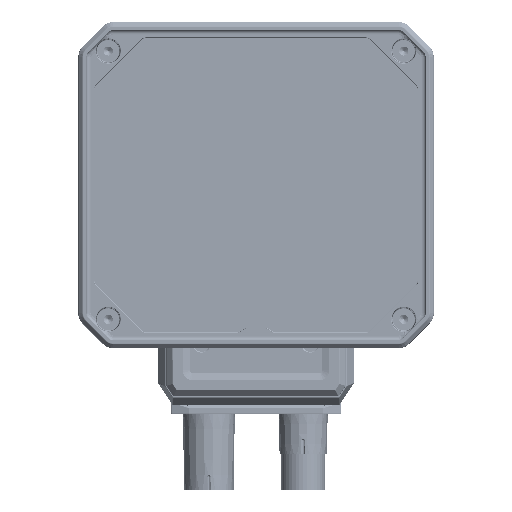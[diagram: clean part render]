
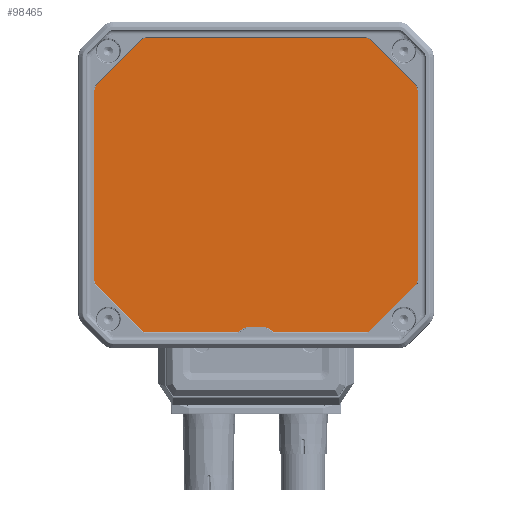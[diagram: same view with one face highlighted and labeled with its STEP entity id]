
A CAD part, front view. The second image highlights one B-rep face of the part: STEP entity #98465.
In plain terms, the highlighted planar face has unit normal (0, -1, 0).
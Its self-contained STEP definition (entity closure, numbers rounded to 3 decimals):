
#20279=DIRECTION('',(0.,0.,1.));
#20280=VECTOR('',#20279,52.429);
#20281=CARTESIAN_POINT('',(-44.55,-31.45,-13.814));
#20282=LINE('',#20281,#20280);
#20299=DIRECTION('',(-1.,0.,0.));
#20300=VECTOR('',#20299,24.918);
#20301=CARTESIAN_POINT('',(-5.296,-31.45,-28.15));
#20302=LINE('',#20301,#20300);
#20335=DIRECTION('',(-1.,0.,0.));
#20336=VECTOR('',#20335,24.918);
#20337=CARTESIAN_POINT('',(30.214,-31.45,-28.15));
#20338=LINE('',#20337,#20336);
#20355=DIRECTION('',(0.,0.,-1.));
#20356=VECTOR('',#20355,52.429);
#20357=CARTESIAN_POINT('',(44.55,-31.45,38.614));
#20358=LINE('',#20357,#20356);
#20379=DIRECTION('',(1.,0.,0.));
#20380=VECTOR('',#20379,60.429);
#20381=CARTESIAN_POINT('',(-30.214,-31.45,52.95));
#20382=LINE('',#20381,#20380);
#20383=CARTESIAN_POINT('',(2.704,-31.45,-28.05));
#20384=DIRECTION('',(0.,1.,0.));
#20385=DIRECTION('',(0.,0.,1.));
#20386=AXIS2_PLACEMENT_3D('',#20383,#20384,#20385);
#20388=DIRECTION('',(1.,0.,0.));
#20389=VECTOR('',#20388,5.407);
#20390=CARTESIAN_POINT('',(-2.704,-31.45,-26.85));
#20391=LINE('',#20390,#20389);
#20392=CARTESIAN_POINT('',(-2.704,-31.45,-28.05));
#20393=DIRECTION('',(0.,1.,0.));
#20394=DIRECTION('',(-0.545,0.,0.838));
#20395=AXIS2_PLACEMENT_3D('',#20392,#20393,#20394);
#20397=DIRECTION('',(0.838,0.,0.545));
#20398=VECTOR('',#20397,1.792);
#20399=CARTESIAN_POINT('',(-4.86,-31.45,-28.021));
#20400=LINE('',#20399,#20398);
#20401=CARTESIAN_POINT('',(-5.296,-31.45,-27.35));
#20402=DIRECTION('',(0.,-1.,0.));
#20403=DIRECTION('',(0.,0.,-1.));
#20404=AXIS2_PLACEMENT_3D('',#20401,#20402,#20403);
#20406=CARTESIAN_POINT('',(-30.214,-31.45,-26.35));
#20407=DIRECTION('',(0.,-1.,0.));
#20408=DIRECTION('',(-0.707,0.,-0.707));
#20409=AXIS2_PLACEMENT_3D('',#20406,#20407,#20408);
#20411=DIRECTION('',(0.707,0.,-0.707));
#20412=VECTOR('',#20411,17.728);
#20413=CARTESIAN_POINT('',(-44.023,-31.45,-15.087));
#20414=LINE('',#20413,#20412);
#20415=CARTESIAN_POINT('',(-42.75,-31.45,-13.814));
#20416=DIRECTION('',(0.,-1.,0.));
#20417=DIRECTION('',(-1.,0.,0.));
#20418=AXIS2_PLACEMENT_3D('',#20415,#20416,#20417);
#20420=CARTESIAN_POINT('',(-42.75,-31.45,38.614));
#20421=DIRECTION('',(0.,-1.,0.));
#20422=DIRECTION('',(-0.707,0.,0.707));
#20423=AXIS2_PLACEMENT_3D('',#20420,#20421,#20422);
#20425=DIRECTION('',(-0.707,0.,-0.707));
#20426=VECTOR('',#20425,17.728);
#20427=CARTESIAN_POINT('',(-31.487,-31.45,52.423));
#20428=LINE('',#20427,#20426);
#20429=CARTESIAN_POINT('',(-30.214,-31.45,51.15));
#20430=DIRECTION('',(0.,-1.,0.));
#20431=DIRECTION('',(0.,0.,1.));
#20432=AXIS2_PLACEMENT_3D('',#20429,#20430,#20431);
#20434=CARTESIAN_POINT('',(30.214,-31.45,51.15));
#20435=DIRECTION('',(0.,-1.,0.));
#20436=DIRECTION('',(0.707,0.,0.707));
#20437=AXIS2_PLACEMENT_3D('',#20434,#20435,#20436);
#20439=DIRECTION('',(-0.707,0.,0.707));
#20440=VECTOR('',#20439,17.728);
#20441=CARTESIAN_POINT('',(44.023,-31.45,39.887));
#20442=LINE('',#20441,#20440);
#20443=CARTESIAN_POINT('',(42.75,-31.45,38.614));
#20444=DIRECTION('',(0.,-1.,0.));
#20445=DIRECTION('',(1.,0.,0.));
#20446=AXIS2_PLACEMENT_3D('',#20443,#20444,#20445);
#20448=CARTESIAN_POINT('',(42.75,-31.45,-13.814));
#20449=DIRECTION('',(0.,-1.,0.));
#20450=DIRECTION('',(0.707,0.,-0.707));
#20451=AXIS2_PLACEMENT_3D('',#20448,#20449,#20450);
#20453=DIRECTION('',(0.707,0.,0.707));
#20454=VECTOR('',#20453,17.728);
#20455=CARTESIAN_POINT('',(31.487,-31.45,-27.623));
#20456=LINE('',#20455,#20454);
#20457=CARTESIAN_POINT('',(30.214,-31.45,-26.35));
#20458=DIRECTION('',(0.,-1.,0.));
#20459=DIRECTION('',(0.,0.,-1.));
#20460=AXIS2_PLACEMENT_3D('',#20457,#20458,#20459);
#20462=CARTESIAN_POINT('',(5.296,-31.45,-27.35));
#20463=DIRECTION('',(0.,-1.,0.));
#20464=DIRECTION('',(-0.545,0.,-0.838));
#20465=AXIS2_PLACEMENT_3D('',#20462,#20463,#20464);
#20467=DIRECTION('',(0.838,0.,-0.545));
#20468=VECTOR('',#20467,1.792);
#20469=CARTESIAN_POINT('',(3.358,-31.45,-27.044));
#20470=LINE('',#20469,#20468);
#67138=CARTESIAN_POINT('',(-4.86,-31.45,-28.021));
#67139=CARTESIAN_POINT('',(-3.358,-31.45,-27.044));
#67140=VERTEX_POINT('',#67138);
#67141=VERTEX_POINT('',#67139);
#67142=CARTESIAN_POINT('',(-2.704,-31.45,-26.85));
#67143=VERTEX_POINT('',#67142);
#67144=CARTESIAN_POINT('',(2.704,-31.45,-26.85));
#67145=VERTEX_POINT('',#67144);
#67146=CARTESIAN_POINT('',(3.358,-31.45,-27.044));
#67147=VERTEX_POINT('',#67146);
#67148=CARTESIAN_POINT('',(4.86,-31.45,-28.021));
#67149=VERTEX_POINT('',#67148);
#67150=CARTESIAN_POINT('',(-5.296,-31.45,-28.15));
#67151=VERTEX_POINT('',#67150);
#67152=CARTESIAN_POINT('',(-30.214,-31.45,-28.15));
#67153=VERTEX_POINT('',#67152);
#67154=CARTESIAN_POINT('',(-31.487,-31.45,-27.623));
#67155=VERTEX_POINT('',#67154);
#67156=CARTESIAN_POINT('',(-44.023,-31.45,-15.087));
#67157=VERTEX_POINT('',#67156);
#67158=CARTESIAN_POINT('',(-44.55,-31.45,-13.814));
#67159=VERTEX_POINT('',#67158);
#67160=CARTESIAN_POINT('',(-44.55,-31.45,38.614));
#67161=VERTEX_POINT('',#67160);
#67162=CARTESIAN_POINT('',(-44.023,-31.45,39.887));
#67163=VERTEX_POINT('',#67162);
#67164=CARTESIAN_POINT('',(-31.487,-31.45,52.423));
#67165=VERTEX_POINT('',#67164);
#67166=CARTESIAN_POINT('',(-30.214,-31.45,52.95));
#67167=VERTEX_POINT('',#67166);
#67168=CARTESIAN_POINT('',(30.214,-31.45,52.95));
#67169=VERTEX_POINT('',#67168);
#67170=CARTESIAN_POINT('',(31.487,-31.45,52.423));
#67171=VERTEX_POINT('',#67170);
#67172=CARTESIAN_POINT('',(44.023,-31.45,39.887));
#67173=VERTEX_POINT('',#67172);
#67174=CARTESIAN_POINT('',(44.55,-31.45,38.614));
#67175=VERTEX_POINT('',#67174);
#67176=CARTESIAN_POINT('',(44.55,-31.45,-13.814));
#67177=VERTEX_POINT('',#67176);
#67178=CARTESIAN_POINT('',(44.023,-31.45,-15.087));
#67179=VERTEX_POINT('',#67178);
#67180=CARTESIAN_POINT('',(31.487,-31.45,-27.623));
#67181=VERTEX_POINT('',#67180);
#67182=CARTESIAN_POINT('',(30.214,-31.45,-28.15));
#67183=VERTEX_POINT('',#67182);
#67184=CARTESIAN_POINT('',(5.296,-31.45,-28.15));
#67185=VERTEX_POINT('',#67184);
#98434=CARTESIAN_POINT('',(0.,-31.45,12.4));
#98435=DIRECTION('',(0.,-1.,0.));
#98436=DIRECTION('',(-1.,0.,0.));
#98437=AXIS2_PLACEMENT_3D('',#98434,#98435,#98436);
#98438=PLANE('',#98437);
#98439=ORIENTED_EDGE('',*,*,#98276,.F.);
#98440=ORIENTED_EDGE('',*,*,#98262,.F.);
#98441=ORIENTED_EDGE('',*,*,#98248,.F.);
#98442=ORIENTED_EDGE('',*,*,#98234,.F.);
#98443=ORIENTED_EDGE('',*,*,#98220,.F.);
#98444=ORIENTED_EDGE('',*,*,#98206,.T.);
#98445=ORIENTED_EDGE('',*,*,#98192,.F.);
#98446=ORIENTED_EDGE('',*,*,#98178,.F.);
#98447=ORIENTED_EDGE('',*,*,#98164,.F.);
#98448=ORIENTED_EDGE('',*,*,#98150,.T.);
#98449=ORIENTED_EDGE('',*,*,#98136,.F.);
#98450=ORIENTED_EDGE('',*,*,#98122,.F.);
#98451=ORIENTED_EDGE('',*,*,#98108,.F.);
#98452=ORIENTED_EDGE('',*,*,#98429,.T.);
#98453=ORIENTED_EDGE('',*,*,#98416,.F.);
#98454=ORIENTED_EDGE('',*,*,#98402,.F.);
#98455=ORIENTED_EDGE('',*,*,#98388,.F.);
#98456=ORIENTED_EDGE('',*,*,#98374,.T.);
#98457=ORIENTED_EDGE('',*,*,#98360,.F.);
#98458=ORIENTED_EDGE('',*,*,#98346,.F.);
#98459=ORIENTED_EDGE('',*,*,#98332,.F.);
#98460=ORIENTED_EDGE('',*,*,#98318,.T.);
#98461=ORIENTED_EDGE('',*,*,#98304,.F.);
#98462=ORIENTED_EDGE('',*,*,#98290,.F.);
#98463=EDGE_LOOP('',(#98439,#98440,#98441,#98442,#98443,#98444,#98445,#98446,
#98447,#98448,#98449,#98450,#98451,#98452,#98453,#98454,#98455,#98456,#98457,
#98458,#98459,#98460,#98461,#98462));
#98464=FACE_OUTER_BOUND('',#98463,.F.);
#20387=CIRCLE('',#20386,1.2);
#20396=CIRCLE('',#20395,1.2);
#20405=CIRCLE('',#20404,0.8);
#20410=CIRCLE('',#20409,1.8);
#20419=CIRCLE('',#20418,1.8);
#20424=CIRCLE('',#20423,1.8);
#20433=CIRCLE('',#20432,1.8);
#20438=CIRCLE('',#20437,1.8);
#20447=CIRCLE('',#20446,1.8);
#20452=CIRCLE('',#20451,1.8);
#20461=CIRCLE('',#20460,1.8);
#20466=CIRCLE('',#20465,0.8);
#98108=EDGE_CURVE('',#67167,#67165,#20433,.T.);
#98122=EDGE_CURVE('',#67165,#67163,#20428,.T.);
#98136=EDGE_CURVE('',#67163,#67161,#20424,.T.);
#98150=EDGE_CURVE('',#67159,#67161,#20282,.T.);
#98164=EDGE_CURVE('',#67159,#67157,#20419,.T.);
#98178=EDGE_CURVE('',#67157,#67155,#20414,.T.);
#98192=EDGE_CURVE('',#67155,#67153,#20410,.T.);
#98206=EDGE_CURVE('',#67151,#67153,#20302,.T.);
#98220=EDGE_CURVE('',#67151,#67140,#20405,.T.);
#98234=EDGE_CURVE('',#67140,#67141,#20400,.T.);
#98248=EDGE_CURVE('',#67141,#67143,#20396,.T.);
#98262=EDGE_CURVE('',#67143,#67145,#20391,.T.);
#98276=EDGE_CURVE('',#67145,#67147,#20387,.T.);
#98290=EDGE_CURVE('',#67147,#67149,#20470,.T.);
#98304=EDGE_CURVE('',#67149,#67185,#20466,.T.);
#98318=EDGE_CURVE('',#67183,#67185,#20338,.T.);
#98332=EDGE_CURVE('',#67183,#67181,#20461,.T.);
#98346=EDGE_CURVE('',#67181,#67179,#20456,.T.);
#98360=EDGE_CURVE('',#67179,#67177,#20452,.T.);
#98374=EDGE_CURVE('',#67175,#67177,#20358,.T.);
#98388=EDGE_CURVE('',#67175,#67173,#20447,.T.);
#98402=EDGE_CURVE('',#67173,#67171,#20442,.T.);
#98416=EDGE_CURVE('',#67171,#67169,#20438,.T.);
#98429=EDGE_CURVE('',#67167,#67169,#20382,.T.);
#98465=ADVANCED_FACE('',(#98464),#98438,.T.);
